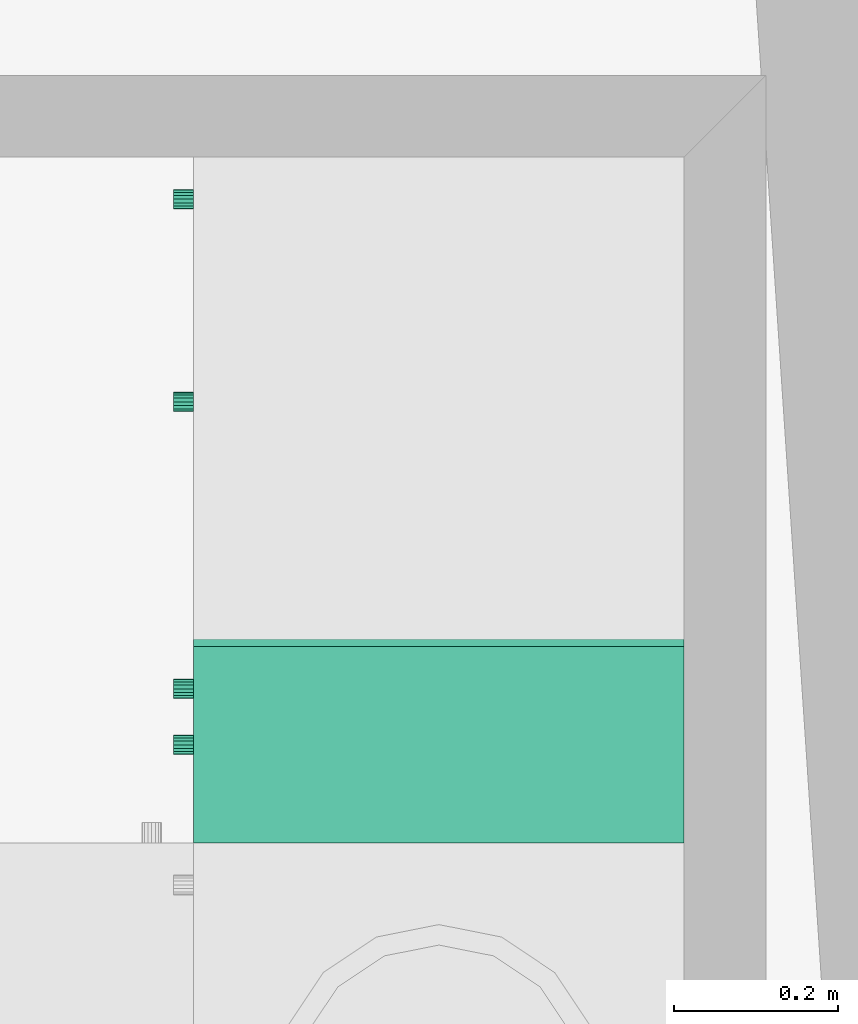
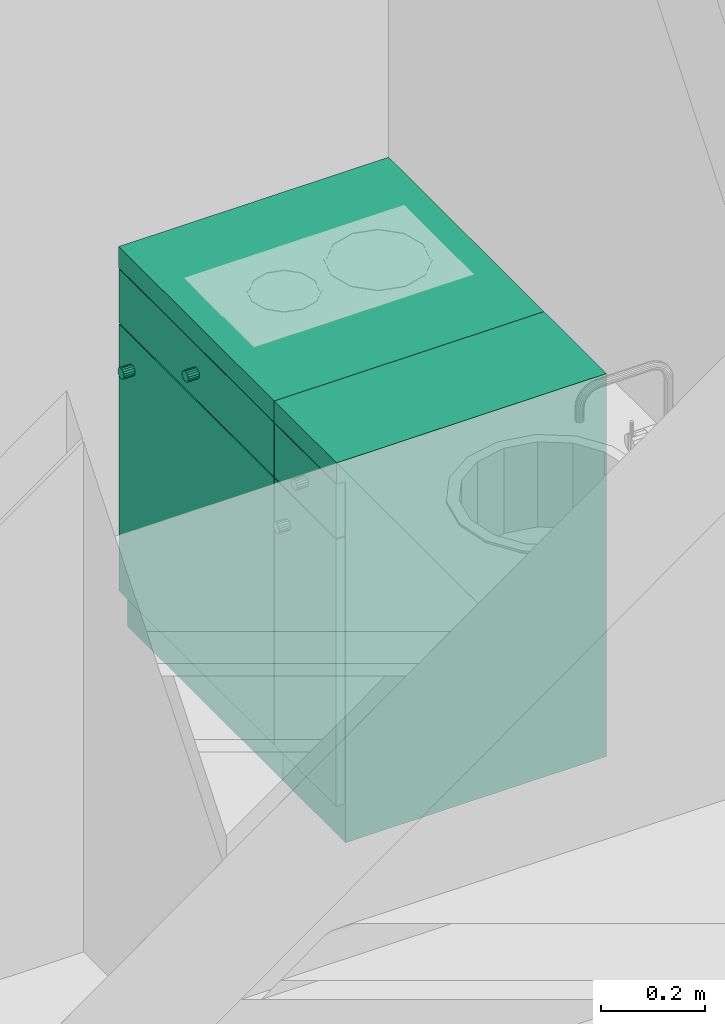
# One storey, part 70 of 172: 2 flow terminals.
"""IFC2X3 building model written with IfcOpenShell, lengths in millimetres."""

from ifc_helpers import new_model, entity, si_unit, converted_unit, money_unit, direction, frame, origin_with_axes, place, context, subcontext, project, spatial, faceted_brep, material, material_list, type_object, element, save


model = new_model("IFC2X3")

# Units and contexts
model_context = context("Model", 3, precision=1e-05, world=origin_with_axes(), true_north=direction((0.0, 1.0)))
body_context = subcontext(model_context, "Body", "Model", "MODEL_VIEW")
ifc_project = project(units=[si_unit("LENGTHUNIT", "METRE", prefix="MILLI"), si_unit("AREAUNIT", "SQUARE_METRE"), si_unit("VOLUMEUNIT", "CUBIC_METRE"), converted_unit("PLANEANGLEUNIT", "DEGREE", entity("IfcPlaneAngleMeasure", 0.0174532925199), si_unit("PLANEANGLEUNIT", "RADIAN"), dimensions=[0, 0, 0, 0, 0, 0, 0]), si_unit("SOLIDANGLEUNIT", "STERADIAN"), money_unit("USD"), converted_unit("TIMEUNIT", "Year", entity("IfcTimeMeasure", 31556926.0), si_unit("TIMEUNIT", "SECOND"), dimensions=[0, 0, 0, 0, 0, 0, 0]), si_unit("MASSUNIT", "GRAM"), si_unit("THERMODYNAMICTEMPERATUREUNIT", "DEGREE_CELSIUS"), si_unit("LUMINOUSINTENSITYUNIT", "LUMEN")], contexts=[model_context])

# Site, building, storey
site_placement = place(None, origin_with_axes())
site = spatial("IfcSite", under=ifc_project, at=site_placement, Name="Site", CompositionType="ELEMENT")
building_placement = place(site_placement, origin_with_axes())
building = spatial("IfcBuilding", under=site, at=building_placement, Name="Building", CompositionType="ELEMENT")
storey_placement = place(building_placement, frame((0.0, 0.0, 3200.0), z_axis=(0.0, 0.0, 1.0), x_axis=(1.0, 0.0, 0.0)))
storey = spatial("IfcBuildingStorey", under=building, at=storey_placement, Name="3KORRUS", CompositionType="ELEMENT", Elevation=3200.0)

# Flow terminals
ifc_material = material(Name="Background")
ifc_material_list = material_list([ifc_material])
sanitary_terminal_type = type_object("IfcSanitaryTerminalType", Name="Cabinet Base Single Door 19", PredefinedType="SINK")
flow_terminal_1_placement = place(storey_placement, frame((17161.5480058, -14898.0262806, 0.0), z_axis=(0.0, 0.0, 1.0), x_axis=(0.0, -1.0, 0.0)))
element("IfcFlowTerminal", 1, at=flow_terminal_1_placement, inside=storey, type_object=sanitary_terminal_type, material=ifc_material_list, Name="FU - 007", context=body_context, shape_type="Brep", body=[
    faceted_brep([(-20.0, 20.0, 710.0), (-20.0, 20.0, 730.0), (-578.786, 20.0, 730.0), (-578.786, 20.0, 710.0), (-20.0, 580.0, 710.0), (-20.0, 580.0, 730.0), (-578.786, 580.0, 730.0), (-578.786, 580.0, 710.0)], [[[0, 1, 2, 3]], [[4, 5, 1, 0]], [[1, 5, 6, 2]], [[3, 2, 6, 7]], [[0, 3, 7, 4]], [[7, 6, 5, 4]]]),
    faceted_brep([(0.0, 20.0, 0.0), (0.0, 20.0, 90.0), (-598.786, 20.0, 90.0), (-598.786, 20.0, 0.0), (0.0, 600.0, 0.0), (0.0, 600.0, 90.0), (-598.786, 600.0, 90.0), (-598.786, 600.0, 0.0)], [[[0, 1, 2, 3]], [[4, 5, 1, 0]], [[1, 5, 6, 2]], [[3, 2, 6, 7]], [[0, 3, 7, 4]], [[7, 6, 5, 4]]]),
    faceted_brep([(0.0, 20.0, 830.0), (0.0, 20.0, 850.0), (-20.0, 20.0, 850.0), (-20.0, 20.0, 830.0), (0.0, 600.0, 830.0), (0.0, 600.0, 850.0), (-20.0, 600.0, 850.0), (-578.786, 600.0, 850.0), (-598.786, 600.0, 850.0), (-598.786, 20.0, 850.0), (-578.786, 20.0, 850.0), (-578.786, 20.0, 830.0), (-598.786, 20.0, 830.0), (-598.786, 600.0, 830.0), (-578.786, 600.0, 830.0), (-20.0, 600.0, 830.0)], [[[0, 1, 2, 3]], [[4, 5, 1, 0]], [[1, 5, 6, 7, 8, 9, 10, 2]], [[3, 2, 10, 11]], [[0, 3, 11, 12, 13, 14, 15, 4]], [[15, 6, 5, 4]], [[14, 7, 6, 15]], [[13, 8, 7, 14]], [[12, 9, 8, 13]], [[11, 10, 9, 12]]]),
    faceted_brep([(0.0, 20.0, 90.0), (0.0, 20.0, 110.0), (-20.0, 20.0, 110.0), (-20.0, 20.0, 90.0), (0.0, 600.0, 90.0), (0.0, 600.0, 110.0), (-20.0, 600.0, 110.0), (-578.786, 600.0, 110.0), (-598.786, 600.0, 110.0), (-598.786, 20.0, 110.0), (-578.786, 20.0, 110.0), (-578.786, 20.0, 90.0), (-598.786, 20.0, 90.0), (-598.786, 600.0, 90.0), (-578.786, 600.0, 90.0), (-20.0, 600.0, 90.0)], [[[0, 1, 2, 3]], [[4, 5, 1, 0]], [[1, 5, 6, 7, 8, 9, 10, 2]], [[3, 2, 10, 11]], [[0, 3, 11, 12, 13, 14, 15, 4]], [[15, 6, 5, 4]], [[14, 7, 6, 15]], [[13, 8, 7, 14]], [[12, 9, 8, 13]], [[11, 10, 9, 12]]]),
    faceted_brep([(0.0, 20.0, 110.0), (0.0, 20.0, 830.0), (-20.0, 20.0, 830.0), (-20.0, 20.0, 110.0), (0.0, 600.0, 110.0), (0.0, 600.0, 830.0), (-598.786, 600.0, 830.0), (-598.786, 20.0, 830.0), (-578.786, 20.0, 830.0), (-578.786, 580.0, 830.0), (-20.0, 580.0, 830.0), (-20.0, 580.0, 110.0), (-578.786, 580.0, 110.0), (-578.786, 20.0, 110.0), (-598.786, 20.0, 110.0), (-598.786, 600.0, 110.0)], [[[0, 1, 2, 3]], [[4, 5, 1, 0]], [[1, 5, 6, 7, 8, 9, 10, 2]], [[3, 2, 10, 11]], [[0, 3, 11, 12, 13, 14, 15, 4]], [[15, 6, 5, 4]], [[14, 7, 6, 15]], [[13, 8, 7, 14]], [[12, 9, 8, 13]], [[11, 10, 9, 12]]]),
    faceted_brep([(-578.786, 20.0, 385.0), (-578.786, 20.0, 405.0), (-578.786, 580.0, 405.0), (-578.786, 580.0, 385.0), (-20.0, 20.0, 385.0), (-20.0, 20.0, 405.0), (-20.0, 580.0, 405.0), (-20.0, 580.0, 385.0)], [[[0, 1, 2, 3]], [[4, 5, 1, 0]], [[1, 5, 6, 2]], [[3, 2, 6, 7]], [[0, 3, 7, 4]], [[7, 6, 5, 4]]]),
    faceted_brep([(0.0, 0.0, 850.0), (0.0, 0.0, 900.0), (-598.786, 0.0, 900.0), (-598.786, 0.0, 850.0), (0.0, 600.0, 850.0), (0.0, 600.0, 900.0), (-598.786, 600.0, 900.0), (-598.786, 600.0, 850.0)], [[[0, 1, 2, 3]], [[4, 5, 1, 0]], [[1, 5, 6, 2]], [[3, 2, 6, 7]], [[0, 3, 7, 4]], [[7, 6, 5, 4]]]),
    faceted_brep([(-1.5, 20.0, 721.5), (-1.5, 0.0, 721.5), (-597.286, 0.0, 721.5), (-597.286, 20.0, 721.5), (-1.5, 20.0, 848.5), (-1.5, 0.0, 848.5), (-597.286, 0.0, 848.5), (-597.286, 20.0, 848.5)], [[[0, 1, 2, 3]], [[4, 5, 1, 0]], [[1, 5, 6, 2]], [[3, 2, 6, 7]], [[0, 3, 7, 4]], [[7, 6, 5, 4]]]),
    faceted_brep([(-294.801, 0.0, 773.913), (-299.393, 0.0, 773.0), (-303.985, 0.0, 773.913), (-307.878, 0.0, 776.515), (-310.48, 0.0, 780.408), (-311.393, 0.0, 785.0), (-310.48, 0.0, 789.592), (-307.878, 0.0, 793.485), (-303.985, 0.0, 796.087), (-299.393, 0.0, 797.0), (-294.801, 0.0, 796.087), (-290.908, 0.0, 793.485), (-288.307, 0.0, 789.592), (-287.393, 0.0, 785.0), (-288.307, 0.0, 780.408), (-290.908, 0.0, 776.515), (-294.801, -25.0, 773.913), (-299.393, -25.0, 773.0), (-303.985, -25.0, 773.913), (-307.878, -25.0, 776.515), (-310.48, -25.0, 780.408), (-311.393, -25.0, 785.0), (-310.48, -25.0, 789.592), (-307.878, -25.0, 793.485), (-303.985, -25.0, 796.087), (-299.393, -25.0, 797.0), (-294.801, -25.0, 796.087), (-290.908, -25.0, 793.485), (-288.307, -25.0, 789.592), (-287.393, -25.0, 785.0), (-288.307, -25.0, 780.408), (-290.908, -25.0, 776.515)], [[[0, 1, 2, 3, 4, 5, 6, 7, 8, 9, 10, 11, 12, 13, 14, 15]], [[0, 16, 17, 1]], [[1, 17, 18, 2]], [[2, 18, 19, 3]], [[3, 19, 20, 4]], [[4, 20, 21, 5]], [[5, 21, 22, 6]], [[6, 22, 23, 7]], [[7, 23, 24, 8]], [[8, 24, 25, 9]], [[9, 25, 26, 10]], [[10, 26, 27, 11]], [[11, 27, 28, 12]], [[12, 28, 29, 13]], [[13, 29, 30, 14]], [[14, 30, 31, 15]], [[15, 31, 16, 0]], [[16, 31, 30, 29, 28, 27, 26, 25, 24, 23, 22, 21, 20, 19, 18, 17]]]),
    faceted_brep([(-1.5, 20.0, 91.5), (-1.5, 0.0, 91.5), (-597.286, 0.0, 91.5), (-597.286, 20.0, 91.5), (-1.5, 20.0, 718.5), (-1.5, 0.0, 718.5), (-597.286, 0.0, 718.5), (-597.286, 20.0, 718.5)], [[[0, 1, 2, 3]], [[4, 5, 1, 0]], [[1, 5, 6, 2]], [[3, 2, 6, 7]], [[0, 3, 7, 4]], [[7, 6, 5, 4]]]),
    faceted_brep([(-558.373, 0.0, 636.908), (-559.286, 0.0, 641.5), (-558.373, 0.0, 646.092), (-555.772, 0.0, 649.985), (-551.879, 0.0, 652.587), (-547.286, 0.0, 653.5), (-542.694, 0.0, 652.587), (-538.801, 0.0, 649.985), (-536.2, 0.0, 646.092), (-535.286, 0.0, 641.5), (-536.2, 0.0, 636.908), (-538.801, 0.0, 633.015), (-542.694, 0.0, 630.413), (-547.286, 0.0, 629.5), (-551.879, 0.0, 630.413), (-555.772, 0.0, 633.015), (-558.373, -25.0, 636.908), (-559.286, -25.0, 641.5), (-558.373, -25.0, 646.092), (-555.772, -25.0, 649.985), (-551.879, -25.0, 652.587), (-547.286, -25.0, 653.5), (-542.694, -25.0, 652.587), (-538.801, -25.0, 649.985), (-536.2, -25.0, 646.092), (-535.286, -25.0, 641.5), (-536.2, -25.0, 636.908), (-538.801, -25.0, 633.015), (-542.694, -25.0, 630.413), (-547.286, -25.0, 629.5), (-551.879, -25.0, 630.413), (-555.772, -25.0, 633.015)], [[[0, 1, 2, 3, 4, 5, 6, 7, 8, 9, 10, 11, 12, 13, 14, 15]], [[0, 16, 17, 1]], [[1, 17, 18, 2]], [[2, 18, 19, 3]], [[3, 19, 20, 4]], [[4, 20, 21, 5]], [[5, 21, 22, 6]], [[6, 22, 23, 7]], [[7, 23, 24, 8]], [[8, 24, 25, 9]], [[9, 25, 26, 10]], [[10, 26, 27, 11]], [[11, 27, 28, 12]], [[12, 28, 29, 13]], [[13, 29, 30, 14]], [[14, 30, 31, 15]], [[15, 31, 16, 0]], [[16, 31, 30, 29, 28, 27, 26, 25, 24, 23, 22, 21, 20, 19, 18, 17]]]),
])
flow_terminal_2_placement = place(storey_placement, frame((17161.5480058, -15138.0262806, 0.0), z_axis=(0.0, 0.0, 1.0), x_axis=(0.0, -1.0, 0.0)))
element("IfcFlowTerminal", 2, at=flow_terminal_2_placement, inside=storey, type_object=sanitary_terminal_type, material=ifc_material_list, Name="FU - 007", context=body_context, shape_type="Brep", body=[
    faceted_brep([(-20.0, 20.0, 710.0), (-20.0, 20.0, 730.0), (-220.0, 20.0, 730.0), (-220.0, 20.0, 710.0), (-20.0, 580.0, 710.0), (-20.0, 580.0, 730.0), (-220.0, 580.0, 730.0), (-220.0, 580.0, 710.0)], [[[0, 1, 2, 3]], [[4, 5, 1, 0]], [[1, 5, 6, 2]], [[3, 2, 6, 7]], [[0, 3, 7, 4]], [[7, 6, 5, 4]]]),
    faceted_brep([(0.0, 20.0, 0.0), (0.0, 20.0, 90.0), (-240.0, 20.0, 90.0), (-240.0, 20.0, 0.0), (0.0, 600.0, 0.0), (0.0, 600.0, 90.0), (-240.0, 600.0, 90.0), (-240.0, 600.0, 0.0)], [[[0, 1, 2, 3]], [[4, 5, 1, 0]], [[1, 5, 6, 2]], [[3, 2, 6, 7]], [[0, 3, 7, 4]], [[7, 6, 5, 4]]]),
    faceted_brep([(0.0, 20.0, 830.0), (0.0, 20.0, 850.0), (-20.0, 20.0, 850.0), (-20.0, 20.0, 830.0), (0.0, 600.0, 830.0), (0.0, 600.0, 850.0), (-20.0, 600.0, 850.0), (-220.0, 600.0, 850.0), (-240.0, 600.0, 850.0), (-240.0, 20.0, 850.0), (-220.0, 20.0, 850.0), (-220.0, 20.0, 830.0), (-240.0, 20.0, 830.0), (-240.0, 600.0, 830.0), (-220.0, 600.0, 830.0), (-20.0, 600.0, 830.0)], [[[0, 1, 2, 3]], [[4, 5, 1, 0]], [[1, 5, 6, 7, 8, 9, 10, 2]], [[3, 2, 10, 11]], [[0, 3, 11, 12, 13, 14, 15, 4]], [[15, 6, 5, 4]], [[14, 7, 6, 15]], [[13, 8, 7, 14]], [[12, 9, 8, 13]], [[11, 10, 9, 12]]]),
    faceted_brep([(0.0, 20.0, 90.0), (0.0, 20.0, 110.0), (-20.0, 20.0, 110.0), (-20.0, 20.0, 90.0), (0.0, 600.0, 90.0), (0.0, 600.0, 110.0), (-20.0, 600.0, 110.0), (-220.0, 600.0, 110.0), (-240.0, 600.0, 110.0), (-240.0, 20.0, 110.0), (-220.0, 20.0, 110.0), (-220.0, 20.0, 90.0), (-240.0, 20.0, 90.0), (-240.0, 600.0, 90.0), (-220.0, 600.0, 90.0), (-20.0, 600.0, 90.0)], [[[0, 1, 2, 3]], [[4, 5, 1, 0]], [[1, 5, 6, 7, 8, 9, 10, 2]], [[3, 2, 10, 11]], [[0, 3, 11, 12, 13, 14, 15, 4]], [[15, 6, 5, 4]], [[14, 7, 6, 15]], [[13, 8, 7, 14]], [[12, 9, 8, 13]], [[11, 10, 9, 12]]]),
    faceted_brep([(0.0, 20.0, 110.0), (0.0, 20.0, 830.0), (-20.0, 20.0, 830.0), (-20.0, 20.0, 110.0), (0.0, 600.0, 110.0), (0.0, 600.0, 830.0), (-240.0, 600.0, 830.0), (-240.0, 20.0, 830.0), (-220.0, 20.0, 830.0), (-220.0, 580.0, 830.0), (-20.0, 580.0, 830.0), (-20.0, 580.0, 110.0), (-220.0, 580.0, 110.0), (-220.0, 20.0, 110.0), (-240.0, 20.0, 110.0), (-240.0, 600.0, 110.0)], [[[0, 1, 2, 3]], [[4, 5, 1, 0]], [[1, 5, 6, 7, 8, 9, 10, 2]], [[3, 2, 10, 11]], [[0, 3, 11, 12, 13, 14, 15, 4]], [[15, 6, 5, 4]], [[14, 7, 6, 15]], [[13, 8, 7, 14]], [[12, 9, 8, 13]], [[11, 10, 9, 12]]]),
    faceted_brep([(-220.0, 20.0, 385.0), (-220.0, 20.0, 405.0), (-220.0, 580.0, 405.0), (-220.0, 580.0, 385.0), (-20.0, 20.0, 385.0), (-20.0, 20.0, 405.0), (-20.0, 580.0, 405.0), (-20.0, 580.0, 385.0)], [[[0, 1, 2, 3]], [[4, 5, 1, 0]], [[1, 5, 6, 2]], [[3, 2, 6, 7]], [[0, 3, 7, 4]], [[7, 6, 5, 4]]]),
    faceted_brep([(0.0, 0.0, 850.0), (0.0, 0.0, 900.0), (-240.0, 0.0, 900.0), (-240.0, 0.0, 850.0), (0.0, 600.0, 850.0), (0.0, 600.0, 900.0), (-240.0, 600.0, 900.0), (-240.0, 600.0, 850.0)], [[[0, 1, 2, 3]], [[4, 5, 1, 0]], [[1, 5, 6, 2]], [[3, 2, 6, 7]], [[0, 3, 7, 4]], [[7, 6, 5, 4]]]),
    faceted_brep([(-1.5, 20.0, 721.5), (-1.5, 0.0, 721.5), (-238.5, 0.0, 721.5), (-238.5, 20.0, 721.5), (-1.5, 20.0, 848.5), (-1.5, 0.0, 848.5), (-238.5, 0.0, 848.5), (-238.5, 20.0, 848.5)], [[[0, 1, 2, 3]], [[4, 5, 1, 0]], [[1, 5, 6, 2]], [[3, 2, 6, 7]], [[0, 3, 7, 4]], [[7, 6, 5, 4]]]),
    faceted_brep([(-115.408, 0.0, 773.913), (-120.0, 0.0, 773.0), (-124.592, 0.0, 773.913), (-128.485, 0.0, 776.515), (-131.087, 0.0, 780.408), (-132.0, 0.0, 785.0), (-131.087, 0.0, 789.592), (-128.485, 0.0, 793.485), (-124.592, 0.0, 796.087), (-120.0, 0.0, 797.0), (-115.408, 0.0, 796.087), (-111.515, 0.0, 793.485), (-108.913, 0.0, 789.592), (-108.0, 0.0, 785.0), (-108.913, 0.0, 780.408), (-111.515, 0.0, 776.515), (-115.408, -25.0, 773.913), (-120.0, -25.0, 773.0), (-124.592, -25.0, 773.913), (-128.485, -25.0, 776.515), (-131.087, -25.0, 780.408), (-132.0, -25.0, 785.0), (-131.087, -25.0, 789.592), (-128.485, -25.0, 793.485), (-124.592, -25.0, 796.087), (-120.0, -25.0, 797.0), (-115.408, -25.0, 796.087), (-111.515, -25.0, 793.485), (-108.913, -25.0, 789.592), (-108.0, -25.0, 785.0), (-108.913, -25.0, 780.408), (-111.515, -25.0, 776.515)], [[[0, 1, 2, 3, 4, 5, 6, 7, 8, 9, 10, 11, 12, 13, 14, 15]], [[0, 16, 17, 1]], [[1, 17, 18, 2]], [[2, 18, 19, 3]], [[3, 19, 20, 4]], [[4, 20, 21, 5]], [[5, 21, 22, 6]], [[6, 22, 23, 7]], [[7, 23, 24, 8]], [[8, 24, 25, 9]], [[9, 25, 26, 10]], [[10, 26, 27, 11]], [[11, 27, 28, 12]], [[12, 28, 29, 13]], [[13, 29, 30, 14]], [[14, 30, 31, 15]], [[15, 31, 16, 0]], [[16, 31, 30, 29, 28, 27, 26, 25, 24, 23, 22, 21, 20, 19, 18, 17]]]),
    faceted_brep([(-1.5, 20.0, 91.5), (-1.5, 0.0, 91.5), (-238.5, 0.0, 91.5), (-238.5, 20.0, 91.5), (-1.5, 20.0, 718.5), (-1.5, 0.0, 718.5), (-238.5, 0.0, 718.5), (-238.5, 20.0, 718.5)], [[[0, 1, 2, 3]], [[4, 5, 1, 0]], [[1, 5, 6, 2]], [[3, 2, 6, 7]], [[0, 3, 7, 4]], [[7, 6, 5, 4]]]),
    faceted_brep([(-199.587, 0.0, 636.908), (-200.5, 0.0, 641.5), (-199.587, 0.0, 646.092), (-196.985, 0.0, 649.985), (-193.092, 0.0, 652.587), (-188.5, 0.0, 653.5), (-183.908, 0.0, 652.587), (-180.015, 0.0, 649.985), (-177.413, 0.0, 646.092), (-176.5, 0.0, 641.5), (-177.413, 0.0, 636.908), (-180.015, 0.0, 633.015), (-183.908, 0.0, 630.413), (-188.5, 0.0, 629.5), (-193.092, 0.0, 630.413), (-196.985, 0.0, 633.015), (-199.587, -25.0, 636.908), (-200.5, -25.0, 641.5), (-199.587, -25.0, 646.092), (-196.985, -25.0, 649.985), (-193.092, -25.0, 652.587), (-188.5, -25.0, 653.5), (-183.908, -25.0, 652.587), (-180.015, -25.0, 649.985), (-177.413, -25.0, 646.092), (-176.5, -25.0, 641.5), (-177.413, -25.0, 636.908), (-180.015, -25.0, 633.015), (-183.908, -25.0, 630.413), (-188.5, -25.0, 629.5), (-193.092, -25.0, 630.413), (-196.985, -25.0, 633.015)], [[[0, 1, 2, 3, 4, 5, 6, 7, 8, 9, 10, 11, 12, 13, 14, 15]], [[0, 16, 17, 1]], [[1, 17, 18, 2]], [[2, 18, 19, 3]], [[3, 19, 20, 4]], [[4, 20, 21, 5]], [[5, 21, 22, 6]], [[6, 22, 23, 7]], [[7, 23, 24, 8]], [[8, 24, 25, 9]], [[9, 25, 26, 10]], [[10, 26, 27, 11]], [[11, 27, 28, 12]], [[12, 28, 29, 13]], [[13, 29, 30, 14]], [[14, 30, 31, 15]], [[15, 31, 16, 0]], [[16, 31, 30, 29, 28, 27, 26, 25, 24, 23, 22, 21, 20, 19, 18, 17]]]),
])

save(model, "model.ifc")
